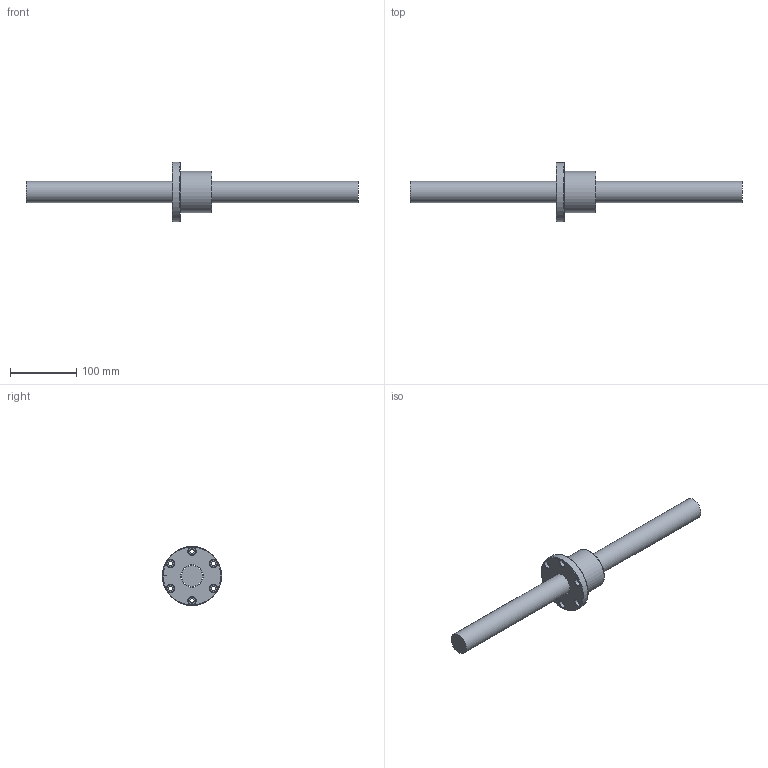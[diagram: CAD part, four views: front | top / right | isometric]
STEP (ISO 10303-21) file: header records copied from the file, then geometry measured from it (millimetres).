
FILE_DESCRIPTION (( 'STEP AP203' ), '1' );
FILE_NAME ('SFV03206N-4.8.step', '2024-05-20T03:39:02', ( '' ), ( '' ), 'SwSTEP 2.0', 'SolidWorks 2022', '' );
FILE_SCHEMA (( 'CONFIG_CONTROL_DESIGN' ));
Length unit declared in the file: millimetre
Products named in the file (1): SFV03206N-4.8
Bounding box: 500 x 89 x 89 mm (x, y, z)
Volume: 560021.4 mm3; surface area: 83215.8 mm2
Topology: 2 solids, 2 shells, 55 faces, 139 edges, 89 vertices
Faces by surface type: cylinder 23, cone 13, plane 12, bspline 4, torus 3
Full cylindrical faces by diameter (mm): 4 x1, 6.6 x6, 7 x5, 11 x6, 32 x1, 34.3 x1, 62 x1, 89 x1
Entity records: 3042 total; most frequent: CARTESIAN_POINT 1991, DIRECTION 206, ORIENTED_EDGE 148, EDGE_LOOP 102, AXIS2_PLACEMENT_3D 101, EDGE_CURVE 74, FACE_OUTER_BOUND 72, VERTEX_POINT 64
